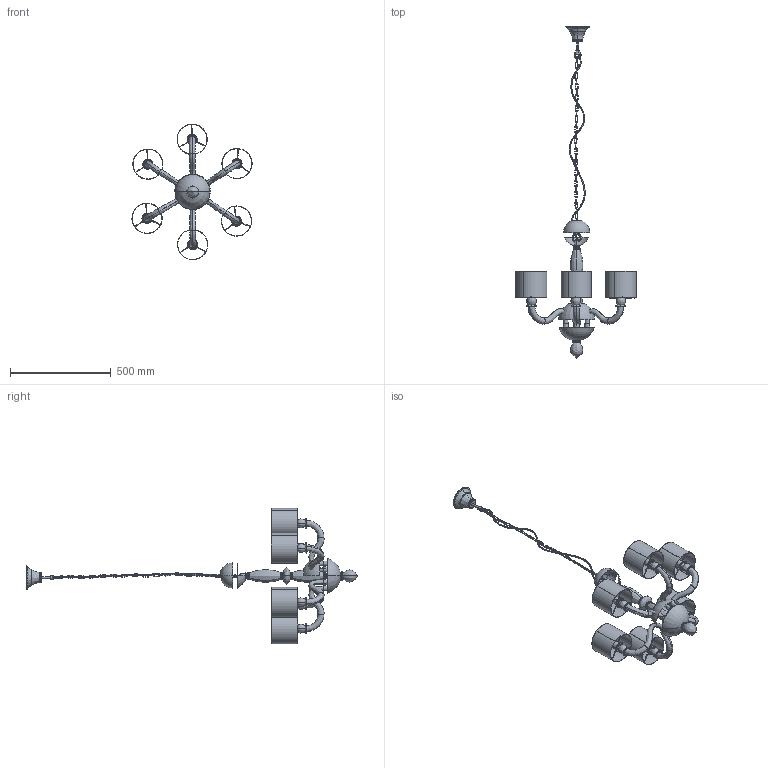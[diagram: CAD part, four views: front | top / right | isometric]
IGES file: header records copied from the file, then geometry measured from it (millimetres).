
Start section: SolidWorks IGES file using analytic representation for surfaces
Global section: file name: F:\GABRYSIA\MODELE 3D\NEWPORT-VI-8156-WWW\NEWPORT-VI-8156.IGS; native system: SolidWorks 2017; preprocessor: SolidWorks 2017; author: Togambi; date: 210202.132748; units: millimetre
Bounding box: 597.4 x 1651.13 x 673.94 mm (x, y, z)
Surface area: 1526578.3 mm2 (no closed solid volume)
Topology: 0 solids, 0 shells, 1198 faces, 18944 edges, 18932 vertices
Faces by surface type: bspline 684, revolution 514
